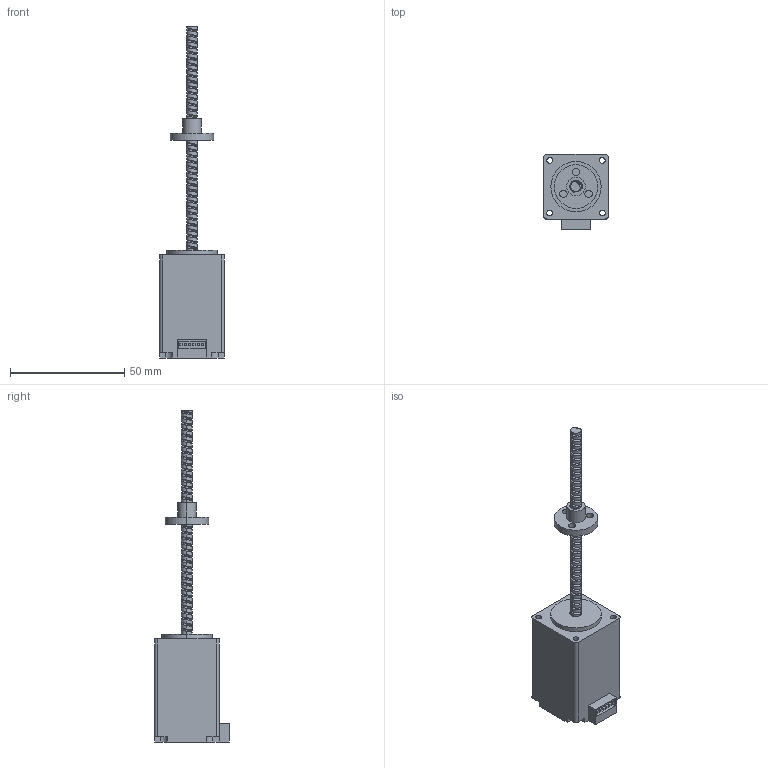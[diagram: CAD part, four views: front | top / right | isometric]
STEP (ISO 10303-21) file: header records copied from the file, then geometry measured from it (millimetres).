
FILE_DESCRIPTION(('FreeCAD Model'),'2;1');
FILE_NAME( 'C:/Users/ck/Documents/NAS02/Ny mappe/Ok/MSL112AEx-4L3N0xxxx.step', '2018-07-27T14:13:12',('Author'),(''), 'Open CASCADE STEP processor 6.8','FreeCAD','Unknown');
FILE_SCHEMA(('AUTOMOTIVE_DESIGN_CC2 { 1 2 10303 214 -1 1 5 4 }'));
Length unit declared in the file: millimetre
Products named in the file (2): ASSEMBLY
Assembly tree (1 placements, depth 2):
  ASSEMBLY
    (unnamed)
Bounding box: 28.2 x 32.7 x 145 mm (x, y, z)
Volume: 38106.5 mm3; surface area: 11256.4 mm2
Topology: 1 solids, 1 shells, 171 faces, 477 edges, 318 vertices
Faces by surface type: cylinder 104, plane 63, bspline 4
Entity records: 40297 total; most frequent: CARTESIAN_POINT 32252, DIRECTION 1057, ORIENTED_EDGE 954, PCURVE 954, DEFINITIONAL_REPRESENTATION 954, B_SPLINE_CURVE_WITH_KNOTS 608, LINE 540, VECTOR 540
